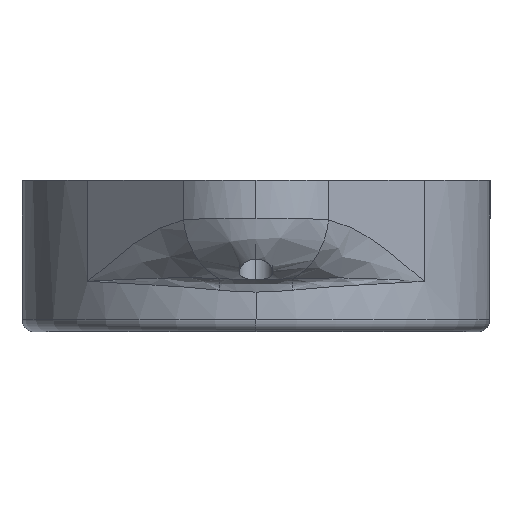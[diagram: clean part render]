
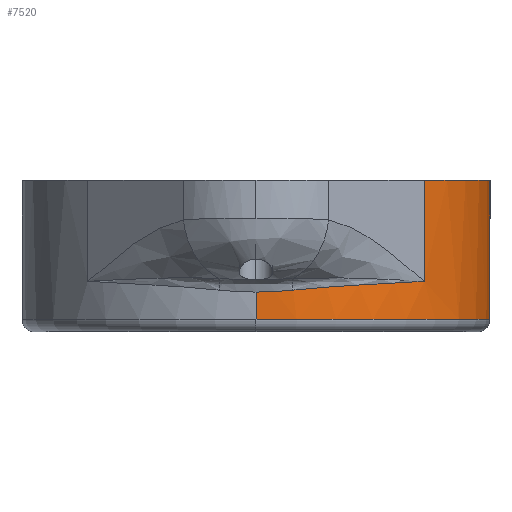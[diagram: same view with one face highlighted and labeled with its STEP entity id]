
A CAD part, left-side view. The second image highlights one B-rep face of the part: STEP entity #7520.
In plain terms, the highlighted cylindrical face has radius 18.5 mm (diameter 37 mm), a partial arc.
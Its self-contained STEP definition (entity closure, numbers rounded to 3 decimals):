
#259 = B_SPLINE_CURVE_WITH_KNOTS ( 'NONE', 3,
 ( #8200, #5578, #4725, #10854, #3224, #5852, #1522, #10271, #7590, #4997, #11125, #10240, #5878, #655, #11015, #5822, #5779, #8554, #624, #680, #8486, #8448 ),
 .UNSPECIFIED., .F., .F.,
 ( 4, 2, 2, 2, 2, 2, 2, 2, 2, 2, 4 ),
 ( 0., 0.002, 0.003, 0.004, 0.006, 0.008, 0.01, 0.012, 0.014, 0.015, 0.016 ),
 .UNSPECIFIED. ) ;
#583 = EDGE_LOOP ( 'NONE', ( #7789, #7938, #1101, #1045, #11009, #3020, #7116, #10325, #11045, #6440 ) ) ;
#591 = CARTESIAN_POINT ( 'NONE',  ( 8.85, -0.486, -18.5 ) ) ;
#624 = CARTESIAN_POINT ( 'NONE',  ( 3.684, -18.465, 1.171 ) ) ;
#655 = CARTESIAN_POINT ( 'NONE',  ( 5.671, -17.916, 4.649 ) ) ;
#680 = CARTESIAN_POINT ( 'NONE',  ( 3.343, -18.493, 0.587 ) ) ;
#749 = CARTESIAN_POINT ( 'NONE',  ( 9., -12.808, 13.35 ) ) ;
#799 = CARTESIAN_POINT ( 'NONE',  ( 11., 0., 18.5 ) ) ;
#911 = EDGE_CURVE ( 'NONE', #7273, #10284, #2948, .T. ) ;
#1045 = ORIENTED_EDGE ( 'NONE', *, *, #2008, .F. ) ;
#1101 = ORIENTED_EDGE ( 'NONE', *, *, #4023, .T. ) ;
#1117 = CARTESIAN_POINT ( 'NONE',  ( 8.221, -9.419, -15.954 ) ) ;
#1157 = CARTESIAN_POINT ( 'NONE',  ( 8.086, -11.848, -14.243 ) ) ;
#1236 = VERTEX_POINT ( 'NONE', #2552 ) ;
#1244 = LINE ( 'NONE', #3451, #6040 ) ;
#1321 = DIRECTION ( 'NONE',  ( 1., 0., 0. ) ) ;
#1471 = DIRECTION ( 'NONE',  ( 1., 0., 0. ) ) ;
#1522 = CARTESIAN_POINT ( 'NONE',  ( 8.45, -15.198, 10.554 ) ) ;
#1562 = VECTOR ( 'NONE', #1471, 1000. ) ;
#1777 = CARTESIAN_POINT ( 'NONE',  ( 8., -13.295, -12.864 ) ) ;
#1877 = CARTESIAN_POINT ( 'NONE',  ( 9., 0., 0. ) ) ;
#2008 = EDGE_CURVE ( 'NONE', #3366, #6710, #9775, .T. ) ;
#2088 = CARTESIAN_POINT ( 'NONE',  ( -12., -18.5, 0. ) ) ;
#2097 = CIRCLE ( 'NONE', #7127, 18.5 ) ;
#2329 = DIRECTION ( 'NONE',  ( 0., 0., -1. ) ) ;
#2552 = CARTESIAN_POINT ( 'NONE',  ( 9., 0., 18.5 ) ) ;
#2948 = LINE ( 'NONE', #5012, #1562 ) ;
#2957 = B_SPLINE_CURVE_WITH_KNOTS ( 'NONE', 3,
 ( #7556, #4927, #10209, #5708, #591, #3084 ),
 .UNSPECIFIED., .F., .F.,
 ( 4, 2, 4 ),
 ( 0., 0.001, 0.003 ),
 .UNSPECIFIED. ) ;
#2989 = AXIS2_PLACEMENT_3D ( 'NONE', #7575, #8471, #7716 ) ;
#3001 = VERTEX_POINT ( 'NONE', #6014 ) ;
#3020 = ORIENTED_EDGE ( 'NONE', *, *, #911, .T. ) ;
#3043 = LINE ( 'NONE', #5889, #6854 ) ;
#3084 = CARTESIAN_POINT ( 'NONE',  ( 8.85, 0., -18.5 ) ) ;
#3224 = CARTESIAN_POINT ( 'NONE',  ( 8.696, -14.61, 11.353 ) ) ;
#3366 = VERTEX_POINT ( 'NONE', #5356 ) ;
#3451 = CARTESIAN_POINT ( 'NONE',  ( -12., 0., -18.5 ) ) ;
#3795 = CARTESIAN_POINT ( 'NONE',  ( 8.175, -10.258, -15.427 ) ) ;
#3833 = DIRECTION ( 'NONE',  ( 1., 0., 0. ) ) ;
#3916 = CYLINDRICAL_SURFACE ( 'NONE', #8771, 18.5 ) ;
#4006 = VERTEX_POINT ( 'NONE', #9122 ) ;
#4023 = EDGE_CURVE ( 'NONE', #6285, #6710, #259, .T. ) ;
#4238 = VERTEX_POINT ( 'NONE', #5187 ) ;
#4626 = CARTESIAN_POINT ( 'NONE',  ( 8.324, -7.649, -16.874 ) ) ;
#4664 = CARTESIAN_POINT ( 'NONE',  ( 8.697, -2.922, -18.268 ) ) ;
#4725 = CARTESIAN_POINT ( 'NONE',  ( 8.933, -13.763, 12.381 ) ) ;
#4763 = AXIS2_PLACEMENT_3D ( 'NONE', #9187, #5765, #4880 ) ;
#4880 = DIRECTION ( 'NONE',  ( 0., 0., -1. ) ) ;
#4904 = EDGE_CURVE ( 'NONE', #10284, #4238, #9384, .T. ) ;
#4927 = CARTESIAN_POINT ( 'NONE',  ( 8.751, -2.438, -18.345 ) ) ;
#4931 = DIRECTION ( 'NONE',  ( 1., 0., 0. ) ) ;
#4997 = CARTESIAN_POINT ( 'NONE',  ( 7.441, -16.654, 8.081 ) ) ;
#5012 = CARTESIAN_POINT ( 'NONE',  ( -12., -13.295, -12.864 ) ) ;
#5187 = CARTESIAN_POINT ( 'NONE',  ( 8.697, -2.922, -18.268 ) ) ;
#5356 = CARTESIAN_POINT ( 'NONE',  ( 0., -18.5, 0. ) ) ;
#5578 = CARTESIAN_POINT ( 'NONE',  ( 9., -13.303, 12.874 ) ) ;
#5708 = CARTESIAN_POINT ( 'NONE',  ( 8.838, -0.973, -18.481 ) ) ;
#5765 = DIRECTION ( 'NONE',  ( -1., 0., 0. ) ) ;
#5779 = CARTESIAN_POINT ( 'NONE',  ( 4.361, -18.361, 2.336 ) ) ;
#5822 = CARTESIAN_POINT ( 'NONE',  ( 4.694, -18.278, 2.916 ) ) ;
#5852 = CARTESIAN_POINT ( 'NONE',  ( 8.539, -15.007, 10.824 ) ) ;
#5878 = CARTESIAN_POINT ( 'NONE',  ( 6.296, -17.576, 5.803 ) ) ;
#5889 = CARTESIAN_POINT ( 'NONE',  ( -12., 0., 18.5 ) ) ;
#6014 = CARTESIAN_POINT ( 'NONE',  ( 8.85, 0., -18.5 ) ) ;
#6040 = VECTOR ( 'NONE', #10404, 1000. ) ;
#6053 = EDGE_CURVE ( 'NONE', #7273, #3366, #10419, .T. ) ;
#6285 = VERTEX_POINT ( 'NONE', #749 ) ;
#6425 = CARTESIAN_POINT ( 'NONE',  ( 8.586, -3.904, -18.111 ) ) ;
#6440 = ORIENTED_EDGE ( 'NONE', *, *, #10094, .T. ) ;
#6625 = EDGE_CURVE ( 'NONE', #3001, #4006, #1244, .T. ) ;
#6710 = VERTEX_POINT ( 'NONE', #6938 ) ;
#6754 = EDGE_CURVE ( 'NONE', #1236, #10878, #3043, .T. ) ;
#6854 = VECTOR ( 'NONE', #4931, 1000. ) ;
#6938 = CARTESIAN_POINT ( 'NONE',  ( 3., -18.5, 0. ) ) ;
#7116 = ORIENTED_EDGE ( 'NONE', *, *, #4904, .T. ) ;
#7127 = AXIS2_PLACEMENT_3D ( 'NONE', #1877, #9831, #10553 ) ;
#7273 = VERTEX_POINT ( 'NONE', #10463 ) ;
#7520 = ADVANCED_FACE ( 'NONE', ( #10672 ), #3916, .T. ) ;
#7556 = CARTESIAN_POINT ( 'NONE',  ( 8.697, -2.922, -18.268 ) ) ;
#7572 = CARTESIAN_POINT ( 'NONE',  ( -12., 0., 0. ) ) ;
#7575 = CARTESIAN_POINT ( 'NONE',  ( 11., 0., 0. ) ) ;
#7590 = CARTESIAN_POINT ( 'NONE',  ( 7.934, -16.068, 9.191 ) ) ;
#7716 = DIRECTION ( 'NONE',  ( 0., 0., -1. ) ) ;
#7789 = ORIENTED_EDGE ( 'NONE', *, *, #6754, .F. ) ;
#7909 = CARTESIAN_POINT ( 'NONE',  ( 8.043, -12.601, -13.582 ) ) ;
#7938 = ORIENTED_EDGE ( 'NONE', *, *, #8417, .T. ) ;
#8200 = CARTESIAN_POINT ( 'NONE',  ( 9., -12.808, 13.35 ) ) ;
#8417 = EDGE_CURVE ( 'NONE', #1236, #6285, #2097, .T. ) ;
#8448 = CARTESIAN_POINT ( 'NONE',  ( 3., -18.5, 0. ) ) ;
#8471 = DIRECTION ( 'NONE',  ( -1., 0., 0. ) ) ;
#8486 = CARTESIAN_POINT ( 'NONE',  ( 3.171, -18.5, 0.292 ) ) ;
#8554 = CARTESIAN_POINT ( 'NONE',  ( 3.854, -18.444, 1.463 ) ) ;
#8593 = EDGE_CURVE ( 'NONE', #4238, #3001, #2957, .T. ) ;
#8771 = AXIS2_PLACEMENT_3D ( 'NONE', #7572, #1321, #2329 ) ;
#9025 = CARTESIAN_POINT ( 'NONE',  ( 8.512, -4.863, -17.877 ) ) ;
#9122 = CARTESIAN_POINT ( 'NONE',  ( 11., 0., -18.5 ) ) ;
#9187 = CARTESIAN_POINT ( 'NONE',  ( 0., 0., 0. ) ) ;
#9384 = B_SPLINE_CURVE_WITH_KNOTS ( 'NONE', 3,
 ( #1777, #7909, #1157, #3795, #1117, #4626, #10719, #9025, #6425, #4664 ),
 .UNSPECIFIED., .F., .F.,
 ( 4, 2, 2, 2, 4 ),
 ( 0., 0.003, 0.006, 0.009, 0.012 ),
 .UNSPECIFIED. ) ;
#9775 = LINE ( 'NONE', #2088, #10048 ) ;
#9831 = DIRECTION ( 'NONE',  ( 1., 0., 0. ) ) ;
#9907 = CARTESIAN_POINT ( 'NONE',  ( 8., -13.295, -12.864 ) ) ;
#10048 = VECTOR ( 'NONE', #3833, 1000. ) ;
#10094 = EDGE_CURVE ( 'NONE', #4006, #10878, #10843, .T. ) ;
#10209 = CARTESIAN_POINT ( 'NONE',  ( 8.789, -1.948, -18.404 ) ) ;
#10240 = CARTESIAN_POINT ( 'NONE',  ( 6.6, -17.375, 6.382 ) ) ;
#10271 = CARTESIAN_POINT ( 'NONE',  ( 8.159, -15.743, 9.739 ) ) ;
#10284 = VERTEX_POINT ( 'NONE', #9907 ) ;
#10325 = ORIENTED_EDGE ( 'NONE', *, *, #8593, .T. ) ;
#10404 = DIRECTION ( 'NONE',  ( 1., 0., 0. ) ) ;
#10419 = CIRCLE ( 'NONE', #4763, 18.5 ) ;
#10463 = CARTESIAN_POINT ( 'NONE',  ( 0., -13.295, -12.864 ) ) ;
#10553 = DIRECTION ( 'NONE',  ( 0., 0., 1. ) ) ;
#10672 = FACE_OUTER_BOUND ( 'NONE', #583, .T. ) ;
#10719 = CARTESIAN_POINT ( 'NONE',  ( 8.379, -6.734, -17.259 ) ) ;
#10843 = CIRCLE ( 'NONE', #2989, 18.5 ) ;
#10854 = CARTESIAN_POINT ( 'NONE',  ( 8.764, -14.404, 11.614 ) ) ;
#10878 = VERTEX_POINT ( 'NONE', #799 ) ;
#11009 = ORIENTED_EDGE ( 'NONE', *, *, #6053, .F. ) ;
#11015 = CARTESIAN_POINT ( 'NONE',  ( 5.349, -18.056, 4.072 ) ) ;
#11045 = ORIENTED_EDGE ( 'NONE', *, *, #6625, .T. ) ;
#11125 = CARTESIAN_POINT ( 'NONE',  ( 7.172, -16.914, 7.52 ) ) ;
